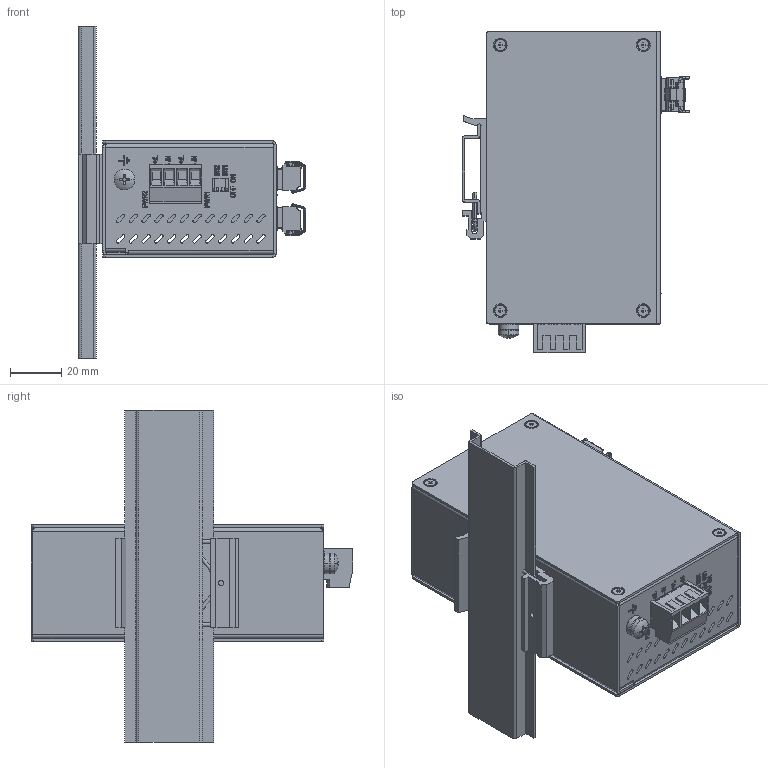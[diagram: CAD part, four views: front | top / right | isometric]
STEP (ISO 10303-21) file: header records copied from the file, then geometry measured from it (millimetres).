
FILE_DESCRIPTION((''),'2;1');
FILE_NAME('1783-US6T2H_ASM','2017-06-30T',('lixiulong'),(''),'PRO/ENGINEER BY PARAMETRIC TECHNOLOGY CORPORATION, 2009360','PRO/ENGINEER BY PARAMETRIC TECHNOLOGY CORPORATION, 2009360','');
FILE_SCHEMA(('AUTOMOTIVE_DESIGN_CC2 { 1 2 10303 214 -1 1 5 2 }'));
Length unit declared in the file: millimetre
Products named in the file (120): OPAL8DIBAN-JIUJIEGOU_4_AF0; GAIBAN-JIUJIEGOU_3_AF0; PRT0001; PRT0002; 107022029-1-2RJ45-OPAL20-T__AF0; 107022029-1-2RJ45-OPAL20-T__AF1; 107022029-1-2RJ45-OPAL20-T__AF2; 102990201-1-1SFP-PUL_2_AF0; PCB-OPAL8-SFP-MB_ASM_3_AF0_ASM__ASM; 102990201-1-1SFP-PUL_2_AF1; PCB-OPAL8-PWR_ASM_2_AF0_ASM_ASM_ASM; PCB-OPAL8-2SFP6T_ASM_1_AF0_ASM__ASM; 107011520-4-508-JH-90_3; 106010001-BOMA-2_3; 107022029-1-2RJ45-OPAL20-T__AF3; 107022029-1-2RJ45-OPAL20-T__AF4; 107022029-1-2RJ45-OPAL20-T__AF5; PCB-OPAL8-T-MB_ASM_3_AF0_ASM_AS_ASM; 102990201-1-1SFP-PUL_2_AF2; PCB-OPAL8-PWR_ASM_2_AF1_ASM_ASM_ASM; PCB-OPAL8-1SFP7T_ASM_1_AF0_ASM__ASM; GUANGMOKUAI1_1_AF1; PRT0006; PRT0007; PRT0008; GUANGKOUBAOMIAN_2_AF1; GUANGMOKUAIZH_ASM_1_AF1_ASM_ASM_ASM; GUANGMOKUAI1_1_AF2; GUANGKOUBAOMIAN_2_AF2; GUANGMOKUAIZH_ASM_1_AF2_ASM_ASM_ASM; PRT0009; PRT0010; PRT0011; OPAL8-JIUJIEGOU_ASM_1_AF0_ASM_A_ASM; OPAL8-JIUJIEGOU_ASM_ASM_A-87629_ASM; ____-____2_1_; ____-____2_2_; ____70MM_ASM_ASM_ASM_ASM_ASM_AS_ASM; ________-52MM_ASM_ASM_ASM_ASM_A_ASM; _-52MM_ASM_ASM_ASM_ASM_ASM_ASM__ASM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
Assembly tree (130 placements, depth 13):
  1783-US6T2H_ASM
    RA-OPAL8_ASM_ASM
      RA-OPAL8_ASM_ASM_ASM
        RA-OPAL8_ASM_ASM_ASM_ASM
          RA-OPAL8_ASM_ASM_ASM_ASM_ASM
            OPAL8-JIUJIEGOU_ASM_ASM_-175996_ASM
              OPAL8-JIUJIEGOU_ASM_ASM_A-88074_ASM
                OPAL8-JIUJIEGOU_ASM_ASM_A-87662_ASM
                  OPAL8-JIUJIEGOU_ASM_ASM_A-87629_ASM
                  _-52MM_ASM_ASM_ASM_ASM_ASM_ASM__ASM
              1783-US6T2H_ASM_ASM_ASM_ASM_ASM
                MANIFOLD_SOLID_BREP_229612
                MANIFOLD_SOLID_BREP_229729
                MANIFOLD_SOLID_BREP_230009
                MANIFOLD_SOLID_BREP_230122
                MANIFOLD_SOLID_BREP_230235
                MANIFOLD_SOLID_BREP_230486
                MANIFOLD_SOLID_BREP_230700
                MANIFOLD_SOLID_BREP_230951
                MANIFOLD_SOLID_BREP_231165
                MANIFOLD_SOLID_BREP_231381
                MANIFOLD_SOLID_BREP_231531
                MANIFOLD_SOLID_BREP_231741
                MANIFOLD_SOLID_BREP_231842
                MANIFOLD_SOLID_BREP_231943
                MANIFOLD_SOLID_BREP_232044
                MANIFOLD_SOLID_BREP_232559
                MANIFOLD_SOLID_BREP_232659
                MANIFOLD_SOLID_BREP_232777
                MANIFOLD_SOLID_BREP_232941
                MANIFOLD_SOLID_BREP_233155
                MANIFOLD_SOLID_BREP_233369
                MANIFOLD_SOLID_BREP_233579
                MANIFOLD_SOLID_BREP_233680
                MANIFOLD_SOLID_BREP_233844
                MANIFOLD_SOLID_BREP_234039
                MANIFOLD_SOLID_BREP_234152
                MANIFOLD_SOLID_BREP_234432
            812153_ASM_ASM_ASM_ASM_ASM
              1_A_ASM_ASM_ASM_ASM_ASM
                BREP_1
                BREP_2
                BREP_3
                BREP_4
                BREP_5
                BREP_6
                BREP_7
                BREP_8
                BREP_9
                BREP_10
                BREP_11
                BREP_12
                BREP_13
                BREP_14
                BREP_15
                BREP_16
                BREP_17
                BREP_18
                BREP_19
                BREP_20
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Bounding box: 89.06 x 125.75 x 130 mm (x, y, z)
Volume: 122173.3 mm3; surface area: 144910.8 mm2
Topology: 104 solids, 107 shells, 4139 faces, 11165 edges, 7373 vertices
Faces by surface type: plane 2707, cylinder 843, extrusion 345, cone 100, bspline 68, torus 58, revolution 16, sphere 2
Entity records: 135305 total; most frequent: CARTESIAN_POINT 32955, ORIENTED_EDGE 20232, DIRECTION 18851, EDGE_CURVE 10134, VECTOR 8025, LINE 7680, VERTEX_POINT 6701, AXIS2_PLACEMENT_3D 5409
